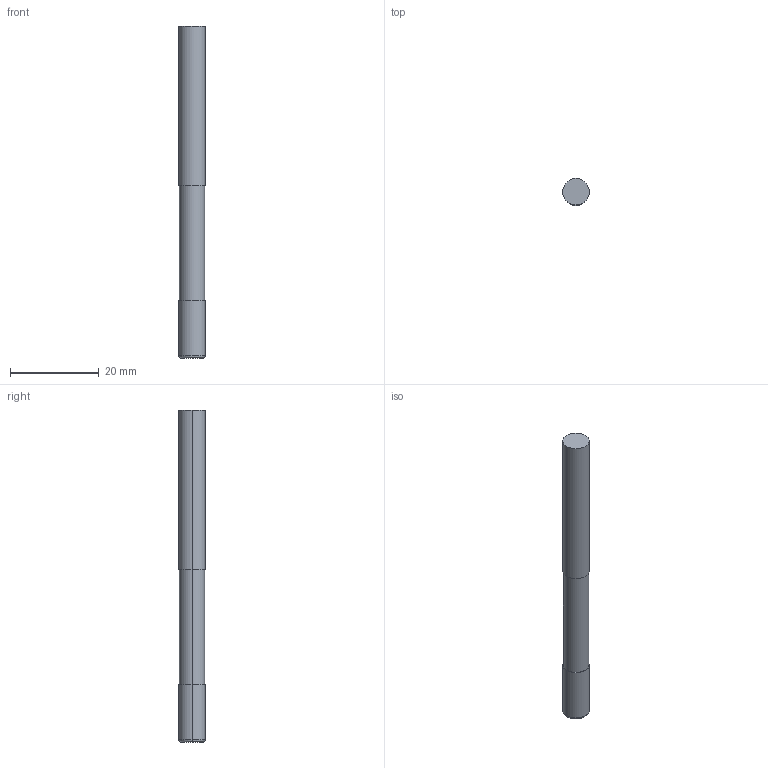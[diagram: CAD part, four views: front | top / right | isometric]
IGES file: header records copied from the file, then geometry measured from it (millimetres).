
Start section: 3D InterOp IGES (v. 2020 1.0.1), Spatial Corp. Copyright (c) 1999-2017.
Global section: file name: WZF13576_6.igs; native system: Spatial Corp.; preprocessor: 3D InterOp GENERIC/IGES 3.0; author: Noname; organization: Noname; date: 20201007.092426; units: metre
Bounding box: 6 x 6 x 75 mm (x, y, z)
Surface area: 1447.1 mm2 (no closed solid volume)
Topology: 0 solids, 0 shells, 12 faces, 44 edges, 44 vertices
Faces by surface type: revolution 8, extrusion 4
